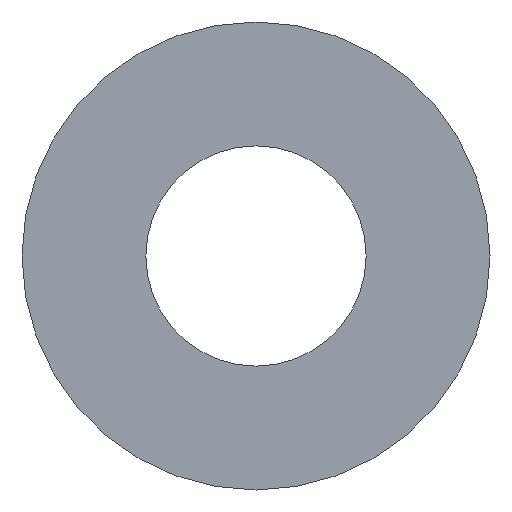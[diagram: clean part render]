
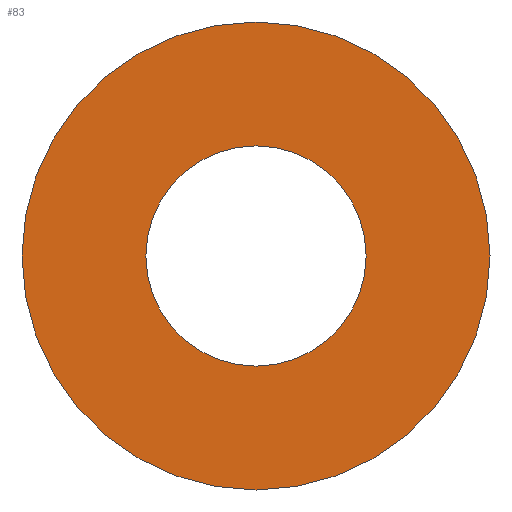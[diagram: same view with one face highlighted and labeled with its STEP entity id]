
A CAD part, front view. The second image highlights one B-rep face of the part: STEP entity #83.
In plain terms, the highlighted planar face has unit normal (0, -1, 0).
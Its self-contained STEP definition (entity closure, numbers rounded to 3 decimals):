
#20=PLANE('',#103);
#26=FACE_BOUND('',#44,.T.);
#32=FACE_OUTER_BOUND('',#43,.T.);
#43=EDGE_LOOP('',(#73));
#44=EDGE_LOOP('',(#74));
#45=CIRCLE('',#93,4.);
#49=CIRCLE('',#99,8.5);
#51=VERTEX_POINT('',#132);
#55=VERTEX_POINT('',#142);
#57=EDGE_CURVE('',#51,#51,#45,.T.);
#61=EDGE_CURVE('',#55,#55,#49,.T.);
#73=ORIENTED_EDGE('',*,*,#61,.F.);
#74=ORIENTED_EDGE('',*,*,#57,.T.);
#83=ADVANCED_FACE('',(#32,#26),#20,.F.);
#93=AXIS2_PLACEMENT_3D('',#133,#108,#109);
#99=AXIS2_PLACEMENT_3D('',#143,#120,#121);
#103=AXIS2_PLACEMENT_3D('',#148,#128,#129);
#108=DIRECTION('center_axis',(0.,1.,0.));
#109=DIRECTION('ref_axis',(0.,0.,1.));
#120=DIRECTION('center_axis',(0.,1.,0.));
#121=DIRECTION('ref_axis',(0.,0.,1.));
#128=DIRECTION('center_axis',(0.,1.,0.));
#129=DIRECTION('ref_axis',(0.,0.,1.));
#132=CARTESIAN_POINT('',(0.,-25.,4.));
#133=CARTESIAN_POINT('Origin',(0.,-25.,0.));
#142=CARTESIAN_POINT('',(0.,-25.,8.5));
#143=CARTESIAN_POINT('Origin',(0.,-25.,0.));
#148=CARTESIAN_POINT('Origin',(7.,-25.,0.));
